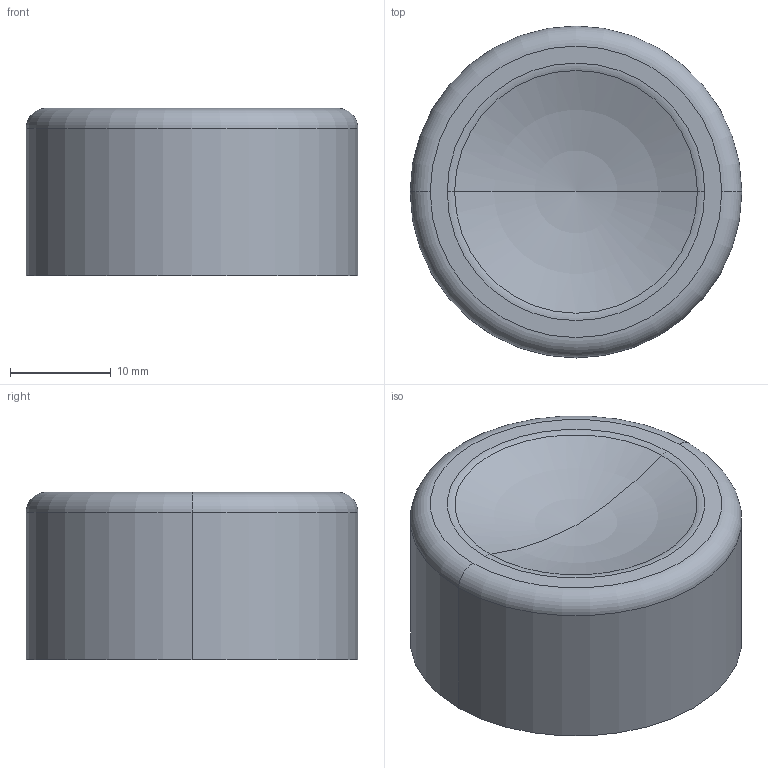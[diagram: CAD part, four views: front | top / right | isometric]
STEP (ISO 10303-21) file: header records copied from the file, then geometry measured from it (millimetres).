
FILE_DESCRIPTION (( 'STEP AP214' ), '1' );
FILE_NAME ('3D 沓麧錪 MTB2-F08.STEP', '2017-04-25T13:10:07', ( 'adm' ), ( 'MICROSOFT' ), 'SwSTEP 2.0', 'SolidWorks 2011', '' );
FILE_SCHEMA (( 'AUTOMOTIVE_DESIGN' ));
Length unit declared in the file: millimetre
Products named in the file (1): 3D 沓麧錪 MTB2-F08
Bounding box: 33 x 33 x 16.65 mm (x, y, z)
Volume: 4636.4 mm3; surface area: 4611.2 mm2
Topology: 1 solids, 1 shells, 16 faces, 34 edges, 18 vertices
Faces by surface type: torus 10, cylinder 4, plane 2
Entity records: 446 total; most frequent: DIRECTION 90, CARTESIAN_POINT 65, ORIENTED_EDGE 60, AXIS2_PLACEMENT_3D 43, EDGE_CURVE 30, CIRCLE 26, EDGE_LOOP 18, VERTEX_POINT 18
